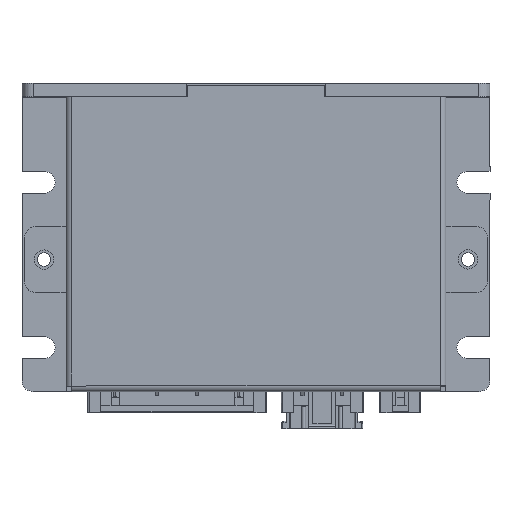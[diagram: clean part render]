
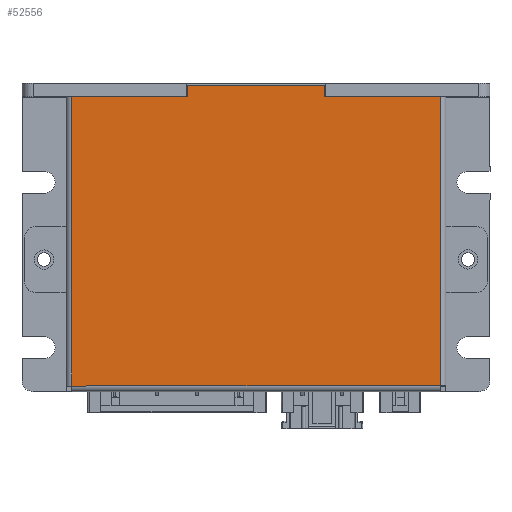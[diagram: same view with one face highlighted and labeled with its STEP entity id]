
A CAD part, top view. The second image highlights one B-rep face of the part: STEP entity #52556.
In plain terms, the highlighted planar face has unit normal (0, 0, 1).
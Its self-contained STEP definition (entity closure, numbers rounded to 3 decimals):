
#1464 = VERTEX_POINT ( 'NONE', #33872 ) ;
#1760 = EDGE_CURVE ( 'NONE', #1464, #68615, #22547, .T. ) ;
#2878 = VECTOR ( 'NONE', #56445, 1000. ) ;
#4142 = AXIS2_PLACEMENT_3D ( 'NONE', #12484, #5697, #37651 ) ;
#4523 = EDGE_CURVE ( 'NONE', #23694, #63474, #79572, .T. ) ;
#5038 = DIRECTION ( 'NONE',  ( -1., 0., 0. ) ) ;
#5586 = CARTESIAN_POINT ( 'NONE',  ( -12.5, 28.25, 0. ) ) ;
#5697 = DIRECTION ( 'NONE',  ( 0., 0., 1. ) ) ;
#8711 = DIRECTION ( 'NONE',  ( 0., -1., 0. ) ) ;
#10873 = CARTESIAN_POINT ( 'NONE',  ( 33.5, -26.25, 0. ) ) ;
#11765 = CARTESIAN_POINT ( 'NONE',  ( -33.5, 26.25, 0. ) ) ;
#11870 = VECTOR ( 'NONE', #5038, 1000. ) ;
#12484 = CARTESIAN_POINT ( 'NONE',  ( 0., 0., 0. ) ) ;
#12991 = DIRECTION ( 'NONE',  ( 1., 0., 0. ) ) ;
#15717 = ORIENTED_EDGE ( 'NONE', *, *, #1760, .F. ) ;
#19334 = PLANE ( 'NONE',  #4142 ) ;
#20317 = VECTOR ( 'NONE', #12991, 1000. ) ;
#22541 = CARTESIAN_POINT ( 'NONE',  ( -33.5, -26.25, 0. ) ) ;
#22547 = LINE ( 'NONE', #23388, #46979 ) ;
#23236 = LINE ( 'NONE', #10873, #60838 ) ;
#23388 = CARTESIAN_POINT ( 'NONE',  ( 12.5, 28.25, 0. ) ) ;
#23694 = VERTEX_POINT ( 'NONE', #63246 ) ;
#24084 = VERTEX_POINT ( 'NONE', #22541 ) ;
#24278 = ORIENTED_EDGE ( 'NONE', *, *, #4523, .T. ) ;
#24301 = CARTESIAN_POINT ( 'NONE',  ( 12.5, 26.25, 0. ) ) ;
#24536 = LINE ( 'NONE', #51031, #20317 ) ;
#27757 = ORIENTED_EDGE ( 'NONE', *, *, #34231, .T. ) ;
#30191 = VECTOR ( 'NONE', #8711, 1000. ) ;
#30480 = VECTOR ( 'NONE', #58557, 1000. ) ;
#33872 = CARTESIAN_POINT ( 'NONE',  ( 12.5, 28.25, 0. ) ) ;
#34231 = EDGE_CURVE ( 'NONE', #68753, #24084, #34346, .T. ) ;
#34346 = LINE ( 'NONE', #40696, #30191 ) ;
#37651 = DIRECTION ( 'NONE',  ( 1., 0., 0. ) ) ;
#39990 = ORIENTED_EDGE ( 'NONE', *, *, #52718, .T. ) ;
#40696 = CARTESIAN_POINT ( 'NONE',  ( -33.5, -26.25, 0. ) ) ;
#43684 = FACE_OUTER_BOUND ( 'NONE', #75520, .T. ) ;
#43917 = DIRECTION ( 'NONE',  ( 0., -1., 0. ) ) ;
#45729 = CARTESIAN_POINT ( 'NONE',  ( 33.5, -26.25, 0. ) ) ;
#45769 = ORIENTED_EDGE ( 'NONE', *, *, #77736, .T. ) ;
#46023 = VECTOR ( 'NONE', #47003, 1000. ) ;
#46686 = VERTEX_POINT ( 'NONE', #56722 ) ;
#46979 = VECTOR ( 'NONE', #43917, 1000. ) ;
#47003 = DIRECTION ( 'NONE',  ( 0., 1., 0. ) ) ;
#47265 = EDGE_CURVE ( 'NONE', #81769, #68753, #83293, .T. ) ;
#50185 = DIRECTION ( 'NONE',  ( 1., 0., 0. ) ) ;
#51031 = CARTESIAN_POINT ( 'NONE',  ( -12.5, 28.25, 0. ) ) ;
#52556 = ADVANCED_FACE ( 'NONE', ( #43684 ), #19334, .T. ) ;
#52718 = EDGE_CURVE ( 'NONE', #63474, #68615, #72388, .T. ) ;
#56445 = DIRECTION ( 'NONE',  ( -1., 0., 0. ) ) ;
#56722 = CARTESIAN_POINT ( 'NONE',  ( -12.5, 28.25, 0. ) ) ;
#57855 = CARTESIAN_POINT ( 'NONE',  ( -12.5, 26.25, 0. ) ) ;
#58384 = EDGE_CURVE ( 'NONE', #46686, #1464, #24536, .T. ) ;
#58557 = DIRECTION ( 'NONE',  ( 0., -1., 0. ) ) ;
#60838 = VECTOR ( 'NONE', #50185, 1000. ) ;
#61078 = ORIENTED_EDGE ( 'NONE', *, *, #76447, .T. ) ;
#61510 = CARTESIAN_POINT ( 'NONE',  ( 33.5, 26.25, 0. ) ) ;
#63246 = CARTESIAN_POINT ( 'NONE',  ( 33.5, -26.25, 0. ) ) ;
#63474 = VERTEX_POINT ( 'NONE', #61510 ) ;
#64160 = LINE ( 'NONE', #5586, #30480 ) ;
#68615 = VERTEX_POINT ( 'NONE', #24301 ) ;
#68753 = VERTEX_POINT ( 'NONE', #11765 ) ;
#70731 = ORIENTED_EDGE ( 'NONE', *, *, #47265, .T. ) ;
#72388 = LINE ( 'NONE', #81740, #2878 ) ;
#75520 = EDGE_LOOP ( 'NONE', ( #27757, #45769, #24278, #39990, #15717, #76172, #61078, #70731 ) ) ;
#76172 = ORIENTED_EDGE ( 'NONE', *, *, #58384, .F. ) ;
#76447 = EDGE_CURVE ( 'NONE', #46686, #81769, #64160, .T. ) ;
#77736 = EDGE_CURVE ( 'NONE', #24084, #23694, #23236, .T. ) ;
#79572 = LINE ( 'NONE', #45729, #46023 ) ;
#81618 = CARTESIAN_POINT ( 'NONE',  ( 33.5, 26.25, 0. ) ) ;
#81740 = CARTESIAN_POINT ( 'NONE',  ( 33.5, 26.25, 0. ) ) ;
#81769 = VERTEX_POINT ( 'NONE', #57855 ) ;
#83293 = LINE ( 'NONE', #81618, #11870 ) ;
